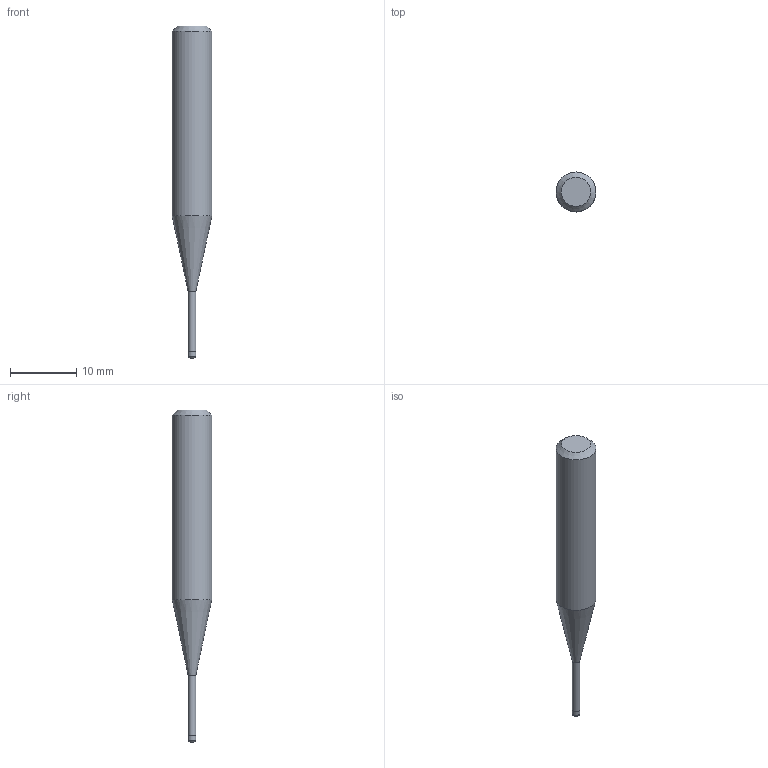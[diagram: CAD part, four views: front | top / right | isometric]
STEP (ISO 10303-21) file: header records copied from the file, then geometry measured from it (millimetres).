
FILE_DESCRIPTION((''),'2;1');
FILE_NAME('C:\Users\nsx150\AppData\Local\Temp\Mastercam 2021\17T8Q8S9EB\TEMP.step','2021-04-21T14:35:16',(''),(''),'STEP Write','Mastercam 2021 ... CNC Software, Inc.','');
FILE_SCHEMA(('AUTOMOTIVE_DESIGN'));
Length unit declared in the file: millimetre
Products named in the file (1): None
Bounding box: 6 x 6 x 50 mm (x, y, z)
Volume: 944.6 mm3; surface area: 726.9 mm2
Topology: 2 solids, 2 shells, 10 faces, 14 edges, 8 vertices
Faces by surface type: plane 4, cylinder 3, cone 2, torus 1
Full cylindrical faces by diameter (mm): 1.14 x1, 1.2 x1, 6 x1
Entity records: 232 total; most frequent: DIRECTION 40, CARTESIAN_POINT 28, AXIS2_PLACEMENT_3D 20, ORIENTED_EDGE 16, EDGE_LOOP 16, STYLED_ITEM 13, ADVANCED_FACE 10, FACE_BOUND 10
